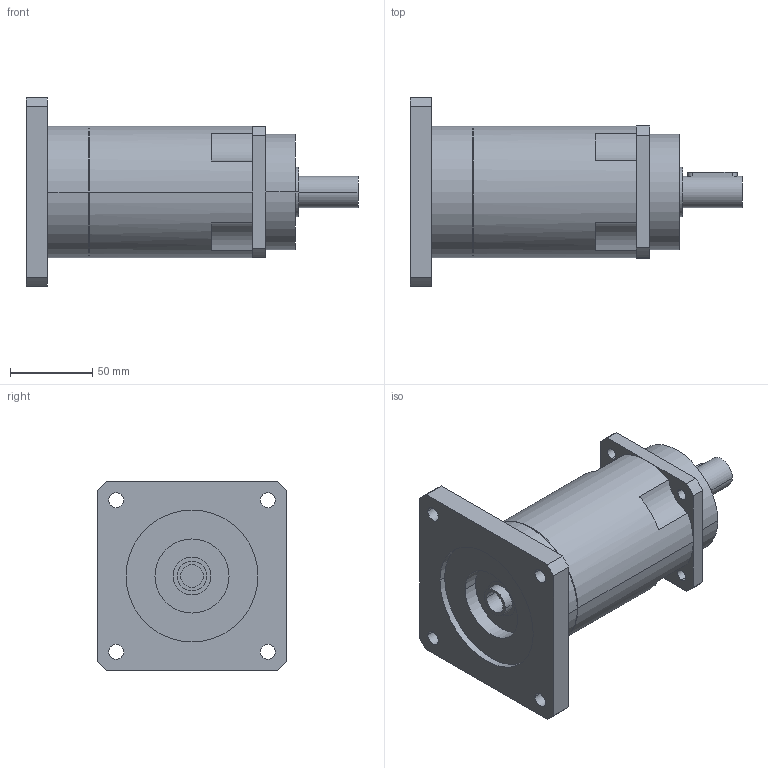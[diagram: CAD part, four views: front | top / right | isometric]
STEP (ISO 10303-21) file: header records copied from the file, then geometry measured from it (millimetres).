
FILE_DESCRIPTION(('CoCreate Modeling STEP Export'),'2;1');
FILE_NAME('GPR100_ig-48-64-80-100-120-144-180-216_19_B5_14_P30.stp','2014-08-26T11:54:51',(''),(''),'CoCreate Modeling STEP processor for AP214 (Solid Model)','CoCreate Modeling 16.00C 25-Feb-2009 (C) Parametric Technology GmbH','');
FILE_SCHEMA(('AUTOMOTIVE_DESIGN { 1 0 10303 214 1 1 1 1 }'));
Length unit declared in the file: millimetre
Products named in the file (2): GPR100_ig-48-64-80-100-120-144-180-216_19_B5_14_P30
Assembly tree (1 placements, depth 2):
  GPR100_ig-48-64-80-100-120-144-180-216_19_B5_14_P30
    GPR100_ig-48-64-80-100-120-144-180-216_19_B5_14_P30
Bounding box: 201.4 x 115 x 115 mm (x, y, z)
Volume: 877959.6 mm3; surface area: 81359.8 mm2
Topology: 1 solids, 1 shells, 89 faces, 240 edges, 162 vertices
Faces by surface type: cylinder 52, plane 31, cone 6
Entity records: 2577 total; most frequent: ORIENTED_EDGE 476, CARTESIAN_POINT 467, DIRECTION 386, EDGE_CURVE 238, VERTEX_POINT 162, AXIS2_PLACEMENT_3D 145, EDGE_LOOP 116, VECTOR 96
